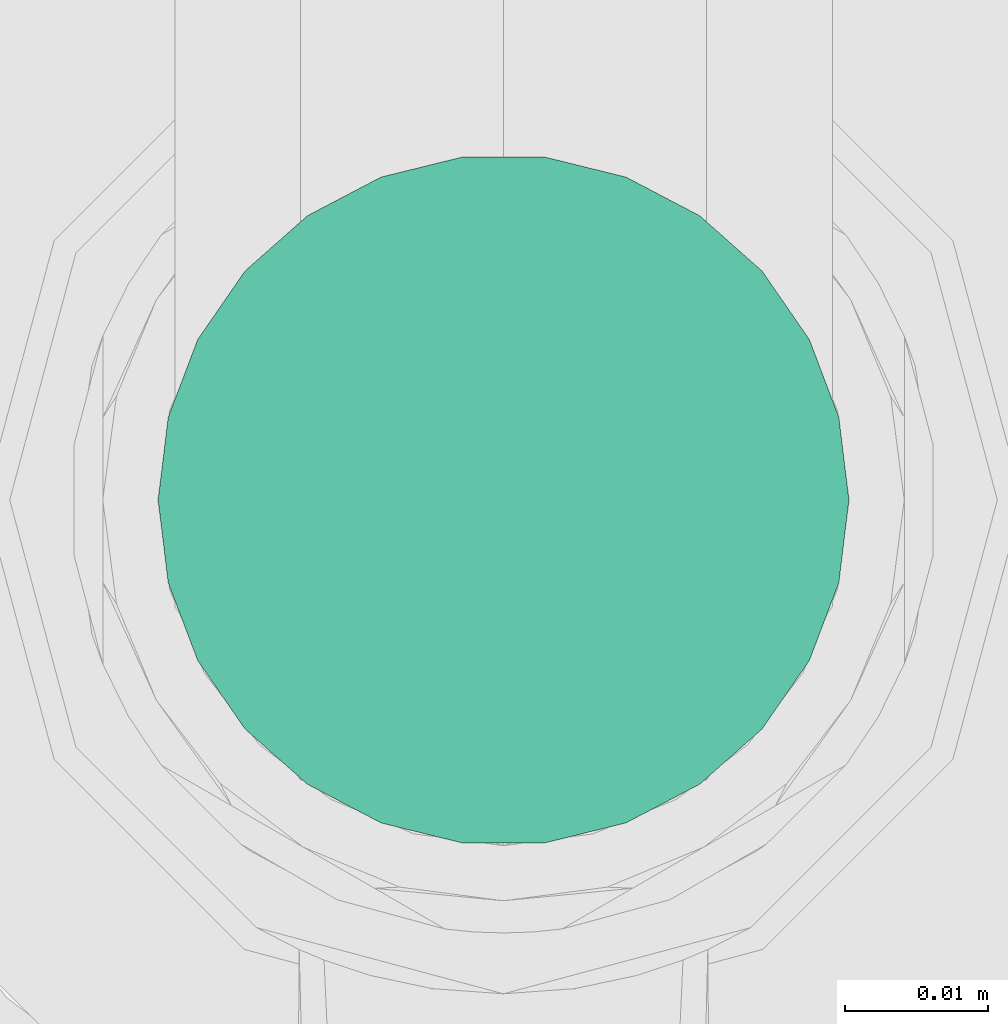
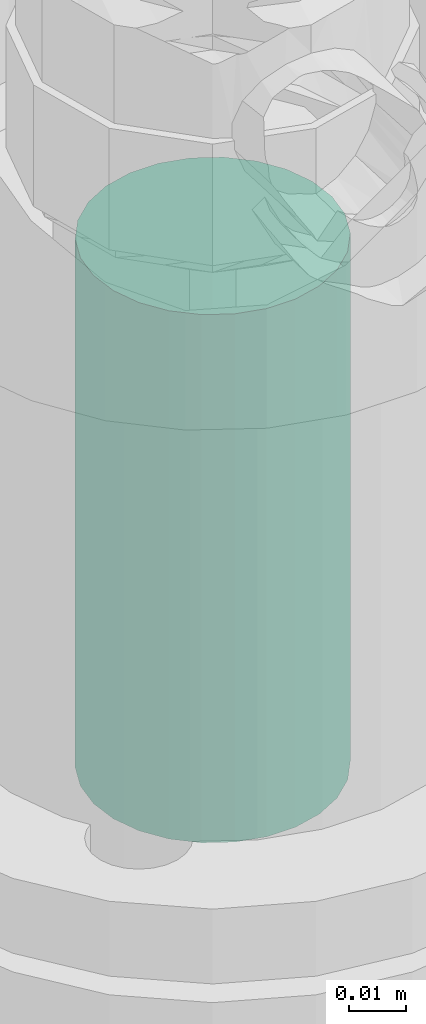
# One storey, part 79 of 94: 1 flow segment.
"""IFC2X3 building model written with IfcOpenShell, lengths in millimetres."""

from ifc_helpers import new_model, entity, si_unit, converted_unit, derived_unit, direction, frame, origin, origin_2d_with_axis, place, context, subcontext, project, spatial, circle, extrude, type_object, element, save


model = new_model("IFC2X3")

# Units and contexts
model_context = context("Model", 3, precision=0.01, world=origin(), true_north=direction((6.123031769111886e-17, 1.0)))
body_context = subcontext(model_context, "Body", "Model", "MODEL_VIEW")
ifc_project = project(units=[si_unit("LENGTHUNIT", "METRE", prefix="MILLI"), si_unit("AREAUNIT", "SQUARE_METRE"), si_unit("VOLUMEUNIT", "CUBIC_METRE"), converted_unit("PLANEANGLEUNIT", "DEGREE", entity("IfcRatioMeasure", 0.017453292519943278), si_unit("PLANEANGLEUNIT", "RADIAN"), dimensions=[0, 0, 0, 0, 0, 0, 0]), si_unit("MASSUNIT", "GRAM", prefix="KILO"), derived_unit("MASSDENSITYUNIT", [(si_unit("MASSUNIT", "GRAM", prefix="KILO"), 1), (si_unit("LENGTHUNIT", "METRE"), -3)]), derived_unit("IONCONCENTRATIONUNIT", [(si_unit("MASSUNIT", "GRAM", prefix="KILO"), 1), (si_unit("LENGTHUNIT", "METRE"), -3)]), derived_unit("MOMENTOFINERTIAUNIT", [(si_unit("LENGTHUNIT", "METRE"), 4)]), si_unit("TIMEUNIT", "SECOND"), si_unit("FREQUENCYUNIT", "HERTZ"), si_unit("THERMODYNAMICTEMPERATUREUNIT", "DEGREE_CELSIUS"), derived_unit("THERMALTRANSMITTANCEUNIT", [(si_unit("MASSUNIT", "GRAM", prefix="KILO"), 1), (si_unit("THERMODYNAMICTEMPERATUREUNIT", "KELVIN"), -1), (si_unit("TIMEUNIT", "SECOND"), -3)]), derived_unit("THERMALCONDUCTANCEUNIT", [(si_unit("MASSUNIT", "GRAM", prefix="KILO"), 1), (si_unit("THERMODYNAMICTEMPERATUREUNIT", "KELVIN"), -1), (si_unit("TIMEUNIT", "SECOND"), -3), (si_unit("LENGTHUNIT", "METRE"), 1)]), derived_unit("VOLUMETRICFLOWRATEUNIT", [(si_unit("LENGTHUNIT", "METRE"), 3), (si_unit("TIMEUNIT", "SECOND"), -1)]), derived_unit("MASSFLOWRATEUNIT", [(si_unit("MASSUNIT", "GRAM", prefix="KILO"), 1), (si_unit("TIMEUNIT", "SECOND"), -1)]), derived_unit("ROTATIONALFREQUENCYUNIT", [(si_unit("TIMEUNIT", "SECOND"), -1)]), si_unit("ELECTRICCURRENTUNIT", "AMPERE"), si_unit("ELECTRICVOLTAGEUNIT", "VOLT"), si_unit("POWERUNIT", "WATT"), si_unit("FORCEUNIT", "NEWTON", prefix="KILO"), si_unit("ILLUMINANCEUNIT", "LUX"), si_unit("LUMINOUSFLUXUNIT", "LUMEN"), si_unit("LUMINOUSINTENSITYUNIT", "CANDELA"), derived_unit("USERDEFINED", [(si_unit("MASSUNIT", "GRAM", prefix="KILO"), -1), (si_unit("LENGTHUNIT", "METRE"), -2), (si_unit("TIMEUNIT", "SECOND"), 3), (si_unit("LUMINOUSFLUXUNIT", "LUMEN"), 1)]), derived_unit("USERDEFINED", [(si_unit("MASSUNIT", "GRAM", prefix="KILO"), 1), (si_unit("TIMEUNIT", "SECOND"), -3), (si_unit("LENGTHUNIT", "METRE"), 3), (si_unit("ELECTRICCURRENTUNIT", "AMPERE"), -2)]), derived_unit("SOUNDPOWERUNIT", [(si_unit("MASSUNIT", "GRAM", prefix="KILO"), 1), (si_unit("TIMEUNIT", "SECOND"), -3), (si_unit("LENGTHUNIT", "METRE"), 2)]), derived_unit("SOUNDPRESSUREUNIT", [(si_unit("MASSUNIT", "GRAM", prefix="KILO"), 1), (si_unit("LENGTHUNIT", "METRE"), -1), (si_unit("TIMEUNIT", "SECOND"), -2)]), derived_unit("LINEARVELOCITYUNIT", [(si_unit("LENGTHUNIT", "METRE"), 1), (si_unit("TIMEUNIT", "SECOND"), -1)]), si_unit("PRESSUREUNIT", "PASCAL"), derived_unit("USERDEFINED", [(si_unit("MASSUNIT", "GRAM", prefix="KILO"), 1), (si_unit("LENGTHUNIT", "METRE"), -2), (si_unit("TIMEUNIT", "SECOND"), -2)]), derived_unit("LINEARFORCEUNIT", [(si_unit("MASSUNIT", "GRAM", prefix="KILO"), 1), (si_unit("TIMEUNIT", "SECOND"), -2)]), derived_unit("PLANARFORCEUNIT", [(si_unit("MASSUNIT", "GRAM", prefix="KILO"), 1), (si_unit("LENGTHUNIT", "METRE"), -1), (si_unit("TIMEUNIT", "SECOND"), -2)]), derived_unit("SPECIFICHEATCAPACITYUNIT", [(si_unit("THERMODYNAMICTEMPERATUREUNIT", "KELVIN"), -1), (si_unit("LENGTHUNIT", "METRE"), 2), (si_unit("TIMEUNIT", "SECOND"), -2)]), derived_unit("HEATINGVALUEUNIT", [(si_unit("LENGTHUNIT", "METRE"), 2), (si_unit("TIMEUNIT", "SECOND"), -2)]), derived_unit("VAPORPERMEABILITYUNIT", [(si_unit("LENGTHUNIT", "METRE"), -1), (si_unit("TIMEUNIT", "SECOND"), 1)]), derived_unit("DYNAMICVISCOSITYUNIT", [(si_unit("MASSUNIT", "GRAM", prefix="KILO"), 1), (si_unit("TIMEUNIT", "SECOND"), -1), (si_unit("LENGTHUNIT", "METRE"), -1)]), derived_unit("THERMALEXPANSIONCOEFFICIENTUNIT", [(si_unit("THERMODYNAMICTEMPERATUREUNIT", "KELVIN"), -1)]), derived_unit("MODULUSOFELASTICITYUNIT", [(si_unit("MASSUNIT", "GRAM", prefix="KILO"), 1), (si_unit("LENGTHUNIT", "METRE"), -1), (si_unit("TIMEUNIT", "SECOND"), -2)]), derived_unit("ISOTHERMALMOISTURECAPACITYUNIT", [(si_unit("LENGTHUNIT", "METRE"), 3), (si_unit("MASSUNIT", "GRAM", prefix="KILO"), -1)]), derived_unit("MOISTUREDIFFUSIVITYUNIT", [(si_unit("TIMEUNIT", "SECOND"), -1), (si_unit("LENGTHUNIT", "METRE"), 2)])], contexts=[model_context])

# Site, building, storey
site_placement = place(None, origin())
site = spatial("IfcSite", under=ifc_project, at=site_placement, Name="Default", CompositionType="ELEMENT")
building_placement = place(site_placement, origin())
building = spatial("IfcBuilding", under=site, at=building_placement, CompositionType="ELEMENT")
storey_placement = place(building_placement, origin())
storey = spatial("IfcBuildingStorey", under=building, at=storey_placement, Name="Niveau 0", CompositionType="ELEMENT", Elevation=0.0)

# Flow segment
pipe_segment_type = type_object("IfcPipeSegmentType", Name="Canalisation:Bride acier", PredefinedType="NOTDEFINED")
flow_segment_placement = place(storey_placement, origin())
element("IfcFlowSegment", 1, at=flow_segment_placement, inside=storey, type_object=pipe_segment_type, Name="Canalisation:Bride acier", ObjectType="Canalisation:Bride acier", context=body_context, shape_type="SweptSolid", body=[
    extrude(circle(Radius=24.13, at=origin_2d_with_axis()), frame((-9472.145865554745, 9922.470546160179, 2492.052721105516), z_axis=(0.0, 0.0, 1.0), x_axis=(-1.0, 0.0, 0.0)), (0.0, 0.0, 1.0), 112.94727889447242),
])

save(model, "model.ifc")
